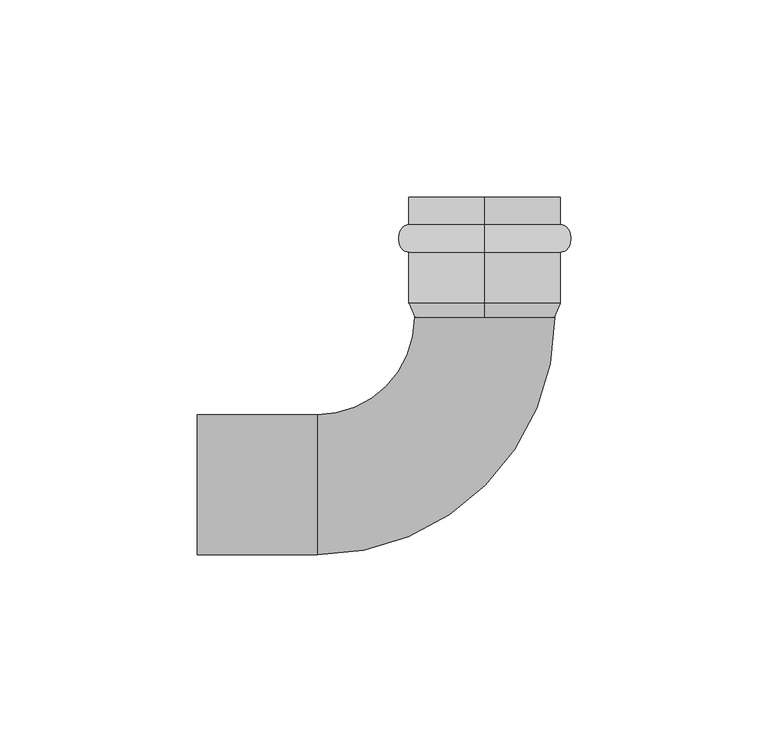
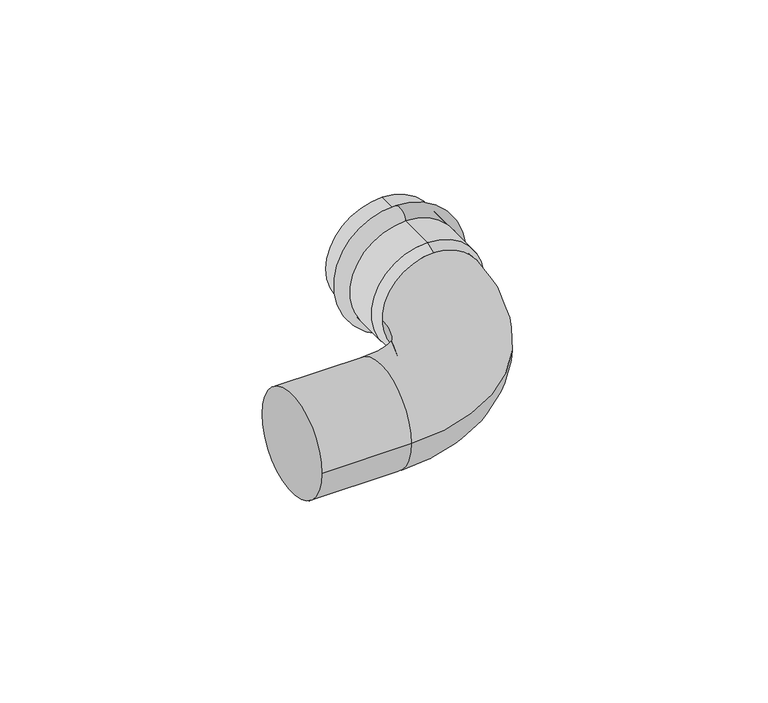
"""IFC4 building model written with IfcOpenShell, lengths in millimetres: pipe fitting geometry, РЕХАУ_Пресс Отвод-вставка : 35 x 90°."""

from ifc_helpers import new_model, si_unit, point, frame, origin, place, context, project, spatial, polyline, circle_curve, ellipse_curve, trimmed, source, transform, mapped, element, save
from ifc_brep_helpers import plane_surface, cylinder_surface, revolved_surface, advanced_brep


def pipe_fitting_50f93ee8(model_context):
    return source(origin(), model_context, "Body", "AdvancedBrep", [
        advanced_brep(
        [(73.0, 66.0, 19.25), (73.0, 66.0, -19.25), (73.0, 59.0, -19.25), (73.0, 59.0, 19.25)],
        [
            (0, 1, circle_curve(frame((73.0, 66.0, 0.0), z_axis=(0.0, 1.0, 0.0), x_axis=(0.0, 0.0, -1.0)), 19.25)),
            (1, 2),
            (2, 3, circle_curve(frame((73.0, 59.0, 0.0), z_axis=(0.0, -1.0, 0.0), x_axis=(0.0, 0.0, -1.0)), 19.25)),
            (3, 0),
            (1, 0, circle_curve(frame((73.0, 66.0, 0.0), z_axis=(0.0, 1.0, 0.0), x_axis=(0.0, 0.0, -1.0)), 19.25)),
            (3, 2, circle_curve(frame((73.0, 59.0, 0.0), z_axis=(0.0, -1.0, 0.0), x_axis=(0.0, 0.0, -1.0)), 19.25)),
            (2, 1, ellipse_curve(frame((73.0, 62.5, -19.25), z_axis=(1.0, 0.0, 0.0), x_axis=(0.0, 1.0, 0.0)), 3.5, 2.75)),
            (0, 3, ellipse_curve(frame((73.0, 62.5, 19.25), z_axis=(1.0, 0.0, 0.0), x_axis=(0.0, 1.0, 0.0)), 3.5, 2.75)),
        ],
        [
            revolved_surface(polyline([(73.0, 59.0, -19.25), (73.0, 66.0, -19.25)]), (73.0, 43.0, 0.0), (0.0, -1.0, 0.0)),
            revolved_surface(trimmed(ellipse_curve(frame((73.0, 62.5, -19.25), z_axis=(-1.0, 0.0, 0.0), x_axis=(0.0, 1.0, 0.0)), 3.5, 2.75), [point((73.0, 66.0, -19.25))], [point((73.0, 59.0, -19.25))], True, "CARTESIAN"), (73.0, 43.0, 0.0), (0.0, -1.0, 0.0)),
        ],
        [
            (0, [[1, 2, 3, 4]]),
            (0, [[5, -4, 6, -2]]),
            (1, [[-3, 7, -1, 8]]),
            (1, [[-6, -8, -5, -7]]),
        ],
    ),
        advanced_brep(
        [(73.0, 42.4662215, 17.75), (73.0, 42.4662215, -17.75), (73.0, 46.0, -19.25), (73.0, 46.0, 19.25), (73.0, 73.0, 17.75), (73.0, 73.0, -17.75), (73.0, 73.0, 19.25), (73.0, 73.0, -19.25)],
        [
            (0, 1, circle_curve(frame((73.0, 42.4662215, 0.0), z_axis=(0.0, 1.0, 0.0), x_axis=(0.0, 0.0, -1.0)), 17.75)),
            (1, 2),
            (2, 3, circle_curve(frame((73.0, 46.0, 0.0), z_axis=(0.0, -1.0, 0.0), x_axis=(0.0, 0.0, -1.0)), 19.25)),
            (3, 0),
            (1, 0, circle_curve(frame((73.0, 42.4662215, 0.0), z_axis=(0.0, 1.0, 0.0), x_axis=(0.0, 0.0, -1.0)), 17.75)),
            (3, 2, circle_curve(frame((73.0, 46.0, 0.0), z_axis=(0.0, -1.0, 0.0), x_axis=(0.0, 0.0, -1.0)), 19.25)),
            (4, 5, circle_curve(frame((73.0, 73.0, 0.0), z_axis=(0.0, 1.0, 0.0), x_axis=(0.0, 0.0, -1.0)), 17.75)),
            (5, 1),
            (0, 4),
            (5, 4, circle_curve(frame((73.0, 73.0, 0.0), z_axis=(0.0, 1.0, 0.0), x_axis=(0.0, 0.0, -1.0)), 17.75)),
            (6, 7, circle_curve(frame((73.0, 73.0, 0.0), z_axis=(0.0, 1.0, 0.0), x_axis=(0.0, 0.0, -1.0)), 19.25)),
            (7, 5),
            (4, 6),
            (7, 6, circle_curve(frame((73.0, 73.0, 0.0), z_axis=(0.0, 1.0, 0.0), x_axis=(0.0, 0.0, -1.0)), 19.25)),
            (2, 7),
            (6, 3),
        ],
        [
            revolved_surface(polyline([(73.0, 46.0, -19.25), (73.0, 42.4662215, -17.75)]), (73.0, 43.0, 0.0), (0.0, -1.0, 0.0)),
            revolved_surface(polyline([(73.0, 42.4662215, -17.75), (73.0, 73.0, -17.75)]), (73.0, 43.0, 0.0), (0.0, -1.0, 0.0)),
            plane_surface(frame((73.0, 73.0, 0.0), z_axis=(0.0, 1.0, 0.0), x_axis=(0.0, 0.0, -1.0))),
            cylinder_surface(frame((73.0, 43.0, 0.0), z_axis=(0.0, -1.0, 0.0), x_axis=(0.0, 0.0, -1.0)), 19.25),
        ],
        [
            (0, [[1, 2, 3, 4]]),
            (0, [[5, -4, 6, -2]]),
            (1, [[7, 8, -1, 9]]),
            (1, [[10, -9, -5, -8]]),
            (2, [[11, 12, -7, 13]]),
            (2, [[14, -13, -10, -12]]),
            (3, [[-3, 15, -11, 16]]),
            (3, [[-6, -16, -14, -15]]),
        ],
    ),
        advanced_brep(
        [(0.0, -17.75, 0.0), (0.0, 17.75, 0.0), (30.5337785, -17.75, 0.0), (30.5337785, 17.75, 0.0), (55.25, 42.4662215, 0.0), (90.75, 42.4662215, 0.0), (90.75, 46.0, 0.0), (55.25, 46.0, 0.0)],
        [
            (0, 1, circle_curve(frame((0.0, 0.0, 0.0), z_axis=(-1.0, 0.0, 0.0), x_axis=(0.0, 1.0, 0.0)), 17.75)),
            (1, 0, circle_curve(frame((0.0, 0.0, 0.0), z_axis=(-1.0, 0.0, 0.0), x_axis=(0.0, 1.0, 0.0)), 17.75)),
            (0, 2),
            (2, 3, circle_curve(frame((30.5337785, 0.0, 0.0), z_axis=(-1.0, 0.0, 0.0), x_axis=(0.0, 1.0, 0.0)), 17.75)),
            (3, 1),
            (3, 2, circle_curve(frame((30.5337785, 0.0, 0.0), z_axis=(-1.0, 0.0, 0.0), x_axis=(0.0, 1.0, 0.0)), 17.75)),
            (4, 3, circle_curve(frame((30.5337785, 42.4662215, 0.0), z_axis=(0.0, 0.0, -1.0), x_axis=(0.0, -1.0, 0.0)), 24.7162215)),
            (2, 5, circle_curve(frame((30.5337785, 42.4662215, 0.0), z_axis=(0.0, 0.0, 1.0), x_axis=(0.0, -1.0, 0.0)), 60.2162215)),
            (5, 4, circle_curve(frame((73.0, 42.4662215, 0.0), z_axis=(0.0, -1.0, 0.0), x_axis=(-1.0, 0.0, 0.0)), 17.75)),
            (4, 5, circle_curve(frame((73.0, 42.4662215, 0.0), z_axis=(0.0, -1.0, 0.0), x_axis=(-1.0, 0.0, 0.0)), 17.75)),
            (6, 7, circle_curve(frame((73.0, 46.0, 0.0), z_axis=(0.0, 1.0, 0.0), x_axis=(-1.0, 0.0, 0.0)), 17.75)),
            (7, 6, circle_curve(frame((73.0, 46.0, 0.0), z_axis=(0.0, 1.0, 0.0), x_axis=(-1.0, 0.0, 0.0)), 17.75)),
            (5, 6),
            (7, 4),
        ],
        [
            plane_surface(frame((0.0, 0.0, 0.0), z_axis=(-1.0, 0.0, 0.0), x_axis=(0.0, 0.0, 1.0))),
            cylinder_surface(frame((0.0, 0.0, 0.0), z_axis=(-1.0, 0.0, 0.0), x_axis=(0.0, 1.0, 0.0)), 17.75),
            revolved_surface(trimmed(ellipse_curve(frame((30.5337785, 0.0, 0.0), z_axis=(-1.0, 0.0, 0.0), x_axis=(0.0, 1.0, 0.0)), 17.75, 17.75), [point((30.5337785, -17.75, 0.0))], [point((30.5337785, 17.75, 0.0))], True, "CARTESIAN"), (30.5337785, 42.4662215, 0.0), (0.0, 0.0, 1.0)),
            revolved_surface(trimmed(ellipse_curve(frame((30.5337785, 0.0, 0.0), z_axis=(-1.0, 0.0, 0.0), x_axis=(0.0, 1.0, 0.0)), 17.75, 17.75), [point((30.5337785, 17.75, 0.0))], [point((30.5337785, -17.75, 0.0))], True, "CARTESIAN"), (30.5337785, 42.4662215, 0.0), (0.0, 0.0, 1.0)),
            plane_surface(frame((73.0, 46.0, 0.0), z_axis=(0.0, 1.0, 0.0), x_axis=(0.0, 0.0, 1.0))),
            cylinder_surface(frame((73.0, 42.4662215, 0.0), z_axis=(0.0, -1.0, 0.0), x_axis=(-1.0, 0.0, 0.0)), 17.75),
        ],
        [
            (0, [[1, 2]]),
            (1, [[-1, 3, 4, 5]]),
            (1, [[-2, -5, 6, -3]]),
            (2, [[7, -4, 8, 9]]),
            (3, [[-8, -6, -7, 10]]),
            (4, [[11, 12]]),
            (5, [[-9, 13, -12, 14]]),
            (5, [[-10, -14, -11, -13]]),
        ],
    ),
    ])


if __name__ == "__main__":
    model = new_model("IFC4")
    model_context = context("Model", 3, world=origin())
    ifc_project = project(units=[si_unit("LENGTHUNIT", "METRE", prefix="MILLI")], contexts=[model_context])
    site = spatial("IfcSite", under=ifc_project)
    building = spatial("IfcBuilding", under=site)
    placement = place(None, origin())
    pipe_fitting_shape = pipe_fitting_50f93ee8(model_context)
    element("IfcPipeFitting", 1, ObjectType="РЕХАУ_Пресс Отвод-вставка : 35 x 90°", at=placement, inside=building, context=model_context, shape_type="MappedRepresentation", body=[
        mapped(pipe_fitting_shape, transform((0.0, 0.0, 0.0), x_axis=(1.0, 0.0, 0.0), y_axis=(0.0, 1.0, 0.0), z_axis=(0.0, 0.0, 1.0))),
    ])
    save(model, "model.ifc")
